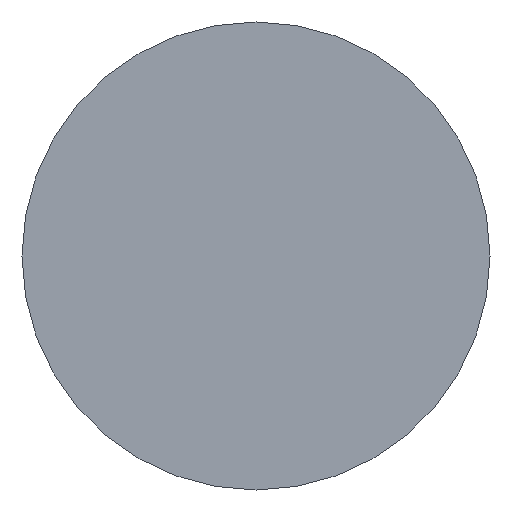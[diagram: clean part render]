
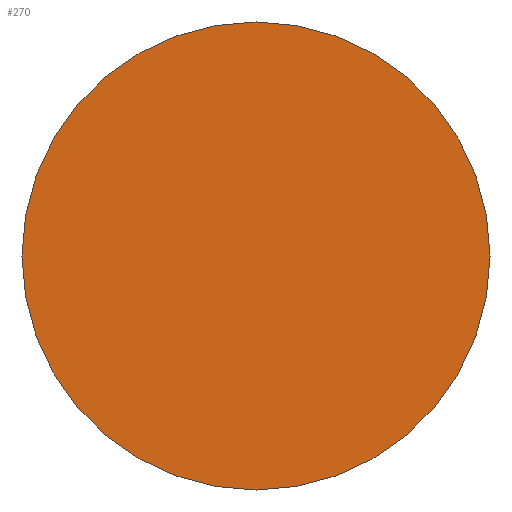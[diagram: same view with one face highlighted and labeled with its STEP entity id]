
A CAD part, front view. The second image highlights one B-rep face of the part: STEP entity #270.
In plain terms, the highlighted planar face has unit normal (0, -1, 0).
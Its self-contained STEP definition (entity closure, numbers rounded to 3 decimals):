
#233=CARTESIAN_POINT('',(-24.245,67.054,0.0));
#234=VERTEX_POINT('',#233);
#241=CARTESIAN_POINT('',(15.752,67.054,0.0));
#242=VERTEX_POINT('',#241);
#243=CARTESIAN_POINT('',(-4.246,67.054,0.0));
#244=DIRECTION('',(0.0,-1.0,0.0));
#245=DIRECTION('',(-1.0,0.0,0.0));
#246=AXIS2_PLACEMENT_3D('',#243,#244,#245);
#247=CIRCLE('',#246,19.999);
#248=EDGE_CURVE('',#242,#234,#247,.T.);
#250=CARTESIAN_POINT('',(-4.246,67.054,0.0));
#251=DIRECTION('',(0.0,-1.0,0.0));
#252=DIRECTION('',(-1.0,0.0,0.0));
#253=AXIS2_PLACEMENT_3D('',#250,#251,#252);
#254=CIRCLE('',#253,19.999);
#255=EDGE_CURVE('',#234,#242,#254,.T.);
#261=CARTESIAN_POINT('',(-44.243,67.054,39.997));
#262=DIRECTION('',(0.0,-1.0,0.0));
#263=DIRECTION('',(0.0,0.0,-1.0));
#264=AXIS2_PLACEMENT_3D('',#261,#262,#263);
#265=PLANE('',#264);
#266=ORIENTED_EDGE('',*,*,#255,.T.);
#267=ORIENTED_EDGE('',*,*,#248,.T.);
#268=EDGE_LOOP('',(#266,#267));
#269=FACE_OUTER_BOUND('',#268,.T.);
#270=ADVANCED_FACE('',(#269),#265,.T.);
